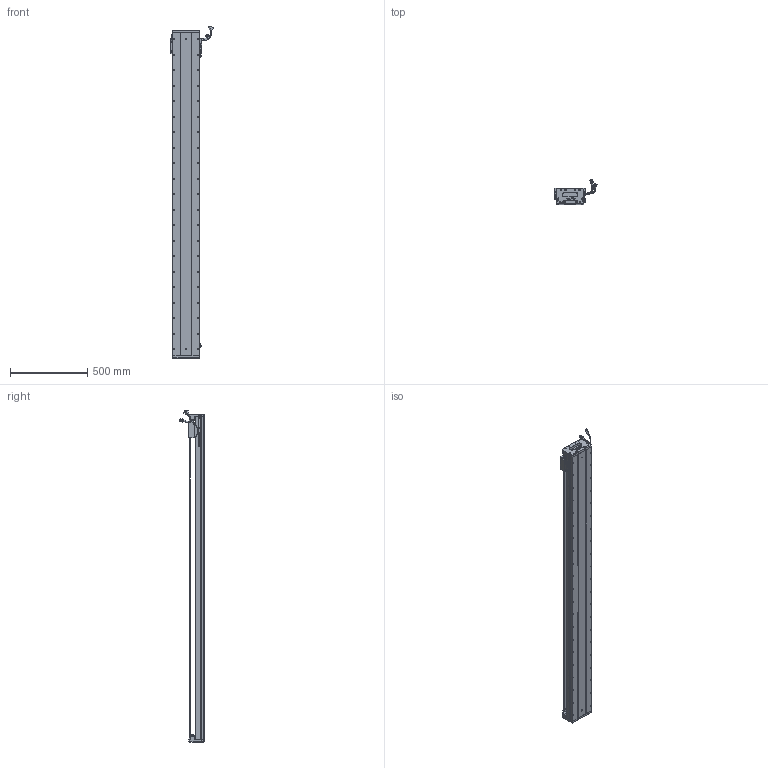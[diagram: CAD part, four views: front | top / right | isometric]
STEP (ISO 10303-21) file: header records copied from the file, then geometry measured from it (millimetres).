
FILE_DESCRIPTION (( 'STEP AP203' ), '1' );
FILE_NAME ('Z1-RY170D-1-L500-B-K.SLDASM_1900.step', '2021-05-17T08:54:10', ( '盈信电脑' ), ( '东莞市道滘镇水果街19号' ), 'SwSTEP 2.0', 'SolidWorks 2016', '' );
FILE_SCHEMA (( 'CONFIG_CONTROL_DESIGN' ));
Length unit declared in the file: millimetre
Products named in the file (36): Z1-RY170D-1-L500-B-K.SLDASM_1900; 140雄赽晤鎢ん堤盄; Z-170詩湍傷裔啣; HARNESS-Part-2; Z1-RY170-L500詩湍145mm遵_1900; COVER; Z1-RY170臏賑輸(21遴); SCREW-M1.6-1; SCREW-M1.7-1; SCREW-M1.7; SCALE-Part-2; SEAL-Part-1; SCREW-M1.6; Z-RY170詩湍奻揤裔; 140蚥薯蝶輸; RY170直线电机感应器672光电感应片; 覜茼ん672; SHIELDPLATE; 榋妏寠巭燃_暯_M2_2; LABEL-Part-1; HARNESS; SCREW-M1.6-3; 170-Z-臏賑輸盄裔(21遴); LABEL; PBU_SHEET; SCALE; HARNESS-Part-1; PSLH080_PSLF2; SCALE-Part-1; SEAL; SCREW-M1.6-2; 080黍杅芛假蚾釱21遴; Z-RY170詩湍狟揤裔; COVER-Part-1; Z1-RY170-L500耀郪菁釱_1900; HOLDER0
Assembly tree (41 placements, depth 4):
  Z1-RY170D-1-L500-B-K.SLDASM_1900
    Z1-RY170-L500耀郪菁釱_1900
    RY170直线电机感应器672光电感应片
    Z1-RY170臏賑輸(21遴)
    覜茼ん672  x3
    PSLH080_PSLF2
      SCALE
        SCALE-Part-1
        SCALE-Part-2
      HARNESS
        HARNESS-Part-1
        HARNESS-Part-2
      LABEL
        LABEL-Part-1
      COVER
        COVER-Part-1
      SEAL
        SEAL-Part-1
      榋妏寠巭燃_暯_M2_2
      SHIELDPLATE
      SCREW-M1.7
      SCREW-M1.7-1
      PBU_SHEET
      SCREW-M1.6
      SCREW-M1.6-1
      SCREW-M1.6-2
      SCREW-M1.6-3
      HOLDER0
    080黍杅芛假蚾釱21遴
    Z1-RY170-L500詩湍145mm遵_1900
    Z-170詩湍傷裔啣  x2
    Z-RY170詩湍奻揤裔  x2
    Z-RY170詩湍狟揤裔  x2
    140蚥薯蝶輸  x2
    170-Z-臏賑輸盄裔(21遴)
    140雄赽晤鎢ん堤盄
Bounding box: 275.34 x 158.11 x 2143.72 mm (x, y, z)
Volume: 10444109.2 mm3; surface area: 2609079.3 mm2
Topology: 36 solids, 36 shells, 3650 faces, 10053 edges, 6295 vertices
Faces by surface type: cylinder 1792, plane 1248, cone 488, torus 69, bspline 53
Entity records: 113081 total; most frequent: CARTESIAN_POINT 31224, ORIENTED_EDGE 16702, DIRECTION 15679, EDGE_CURVE 8351, AXIS2_PLACEMENT_3D 5748, VERTEX_POINT 5413, VECTOR 4183, LINE 4183
